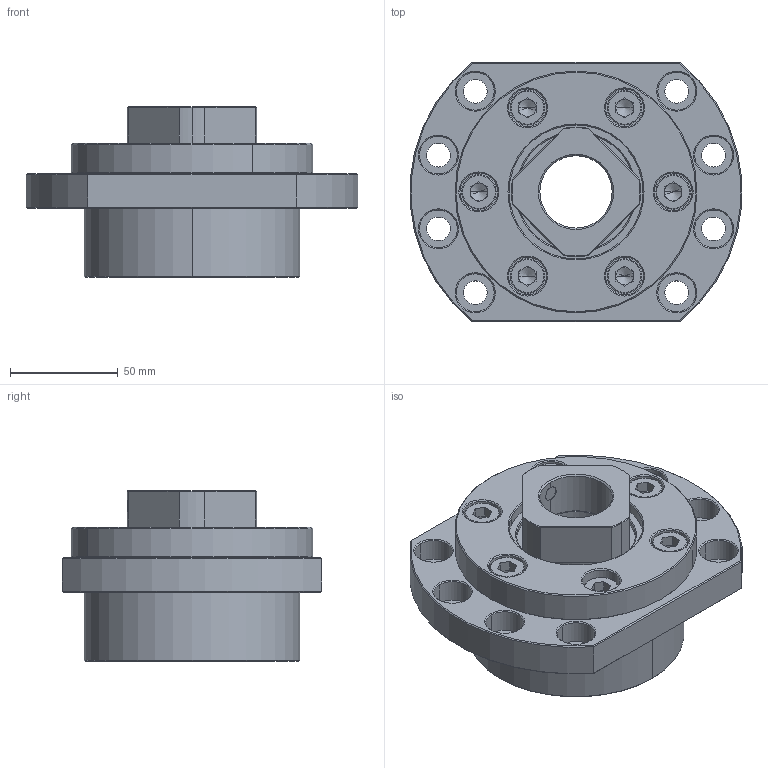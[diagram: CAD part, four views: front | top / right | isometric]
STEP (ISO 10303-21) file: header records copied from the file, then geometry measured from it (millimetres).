
FILE_DESCRIPTION (( 'STEP AP203' ), '1' );
FILE_NAME ('FSGK-35_203.STEP', '2013-02-28T00:30:09', ( '' ), ( '' ), 'SwSTEP 2.0', 'SolidWorks 2012', '' );
FILE_SCHEMA (( 'CONFIG_CONTROL_DESIGN' ));
Length unit declared in the file: millimetre
Products named in the file (1): FSGK-35_203
Bounding box: 153.49 x 120 x 79 mm (x, y, z)
Volume: 572404.3 mm3; surface area: 146177.3 mm2
Topology: 17 solids, 17 shells, 502 faces, 1121 edges, 664 vertices
Faces by surface type: cylinder 159, plane 155, cone 136, torus 52
Entity records: 14033 total; most frequent: DIRECTION 2664, CARTESIAN_POINT 2464, ORIENTED_EDGE 2190, EDGE_CURVE 1095, AXIS2_PLACEMENT_3D 1094, VERTEX_POINT 664, CIRCLE 591, EDGE_LOOP 587
